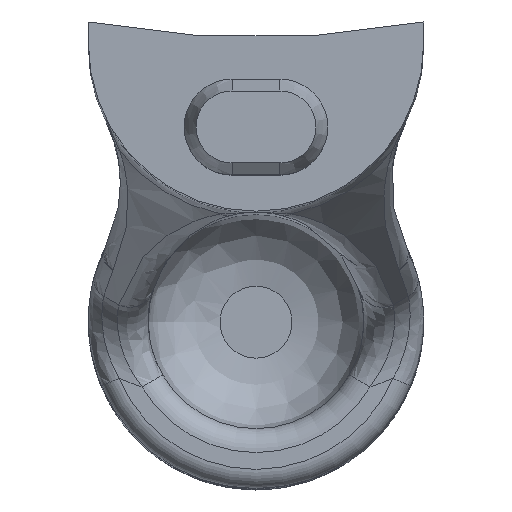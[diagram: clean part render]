
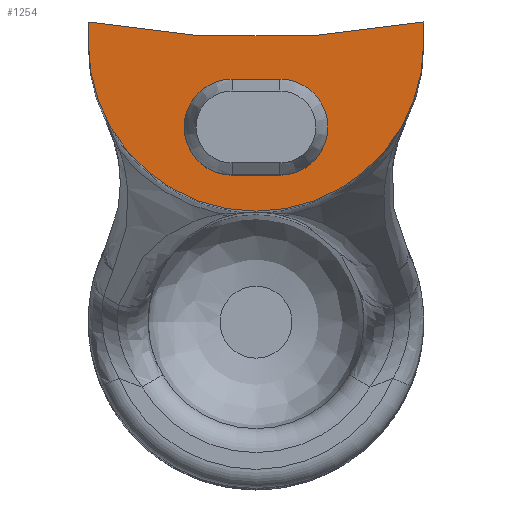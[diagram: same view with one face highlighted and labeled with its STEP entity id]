
A CAD part, top view. The second image highlights one B-rep face of the part: STEP entity #1254.
In plain terms, the highlighted planar face has unit normal (0, 0, 1).
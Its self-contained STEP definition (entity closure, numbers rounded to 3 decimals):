
#66=PLANE('',#1378);
#73=FACE_BOUND('',#430,.T.);
#158=LINE('',#1941,#218);
#191=LINE('',#3450,#251);
#195=LINE('',#3464,#255);
#197=LINE('',#3468,#257);
#218=VECTOR('',#1434,10.);
#251=VECTOR('',#1627,10.);
#255=VECTOR('',#1643,10.);
#257=VECTOR('',#1649,10.);
#350=FACE_OUTER_BOUND('',#429,.T.);
#429=EDGE_LOOP('',(#1147,#1148,#1149,#1150));
#430=EDGE_LOOP('',(#1151,#1152,#1153,#1154));
#445=CIRCLE('',#1291,2.);
#494=CIRCLE('',#1364,7.);
#497=CIRCLE('',#1371,2.);
#498=CIRCLE('',#1373,38.25);
#538=VERTEX_POINT('',#1938);
#539=VERTEX_POINT('',#1940);
#540=VERTEX_POINT('',#1944);
#606=VERTEX_POINT('',#3437);
#607=VERTEX_POINT('',#3439);
#609=VERTEX_POINT('',#3448);
#610=VERTEX_POINT('',#3454);
#612=VERTEX_POINT('',#3457);
#660=EDGE_CURVE('',#539,#538,#158,.T.);
#663=EDGE_CURVE('',#538,#540,#445,.T.);
#786=EDGE_CURVE('',#607,#606,#494,.T.);
#791=EDGE_CURVE('',#540,#609,#191,.T.);
#792=EDGE_CURVE('',#609,#539,#497,.T.);
#794=EDGE_CURVE('',#612,#610,#498,.T.);
#798=EDGE_CURVE('',#610,#607,#195,.T.);
#800=EDGE_CURVE('',#606,#612,#197,.T.);
#1147=ORIENTED_EDGE('',*,*,#794,.T.);
#1148=ORIENTED_EDGE('',*,*,#798,.T.);
#1149=ORIENTED_EDGE('',*,*,#786,.T.);
#1150=ORIENTED_EDGE('',*,*,#800,.T.);
#1151=ORIENTED_EDGE('',*,*,#791,.T.);
#1152=ORIENTED_EDGE('',*,*,#792,.T.);
#1153=ORIENTED_EDGE('',*,*,#660,.T.);
#1154=ORIENTED_EDGE('',*,*,#663,.T.);
#1254=ADVANCED_FACE('',(#350,#73),#66,.T.);
#1291=AXIS2_PLACEMENT_3D('',#1946,#1439,#1440);
#1364=AXIS2_PLACEMENT_3D('',#3440,#1613,#1614);
#1371=AXIS2_PLACEMENT_3D('',#3452,#1630,#1631);
#1373=AXIS2_PLACEMENT_3D('',#3458,#1635,#1636);
#1378=AXIS2_PLACEMENT_3D('',#3469,#1650,#1651);
#1434=DIRECTION('',(-1.,0.,0.));
#1439=DIRECTION('center_axis',(0.,0.,-1.));
#1440=DIRECTION('ref_axis',(0.,1.,0.));
#1613=DIRECTION('center_axis',(0.,0.,1.));
#1614=DIRECTION('ref_axis',(-1.,0.,0.));
#1627=DIRECTION('',(1.,0.,0.));
#1630=DIRECTION('center_axis',(0.,0.,-1.));
#1631=DIRECTION('ref_axis',(0.,-1.,0.));
#1635=DIRECTION('center_axis',(0.,0.,-1.));
#1636=DIRECTION('ref_axis',(1.,0.,0.));
#1643=DIRECTION('',(0.,-1.,0.));
#1649=DIRECTION('',(0.,1.,0.));
#1650=DIRECTION('center_axis',(0.,0.,1.));
#1651=DIRECTION('ref_axis',(1.,0.,0.));
#1938=CARTESIAN_POINT('',(-1.,6.,80.));
#1940=CARTESIAN_POINT('',(1.,6.,80.));
#1941=CARTESIAN_POINT('',(-0.5,6.,80.));
#1944=CARTESIAN_POINT('',(-1.,10.,80.));
#1946=CARTESIAN_POINT('Origin',(-1.,8.,80.));
#3437=CARTESIAN_POINT('',(7.,11.5,80.));
#3439=CARTESIAN_POINT('',(-7.,11.5,80.));
#3440=CARTESIAN_POINT('Origin',(0.,11.5,80.));
#3448=CARTESIAN_POINT('',(1.,10.,80.));
#3450=CARTESIAN_POINT('',(0.5,10.,80.));
#3452=CARTESIAN_POINT('Origin',(1.,8.,80.));
#3454=CARTESIAN_POINT('',(-7.,12.396,80.));
#3457=CARTESIAN_POINT('',(7.,12.396,80.));
#3458=CARTESIAN_POINT('Origin',(0.,50.,80.));
#3464=CARTESIAN_POINT('',(-7.,11.5,80.));
#3468=CARTESIAN_POINT('',(7.,18.5,80.));
#3469=CARTESIAN_POINT('Origin',(0.,7.,80.));
